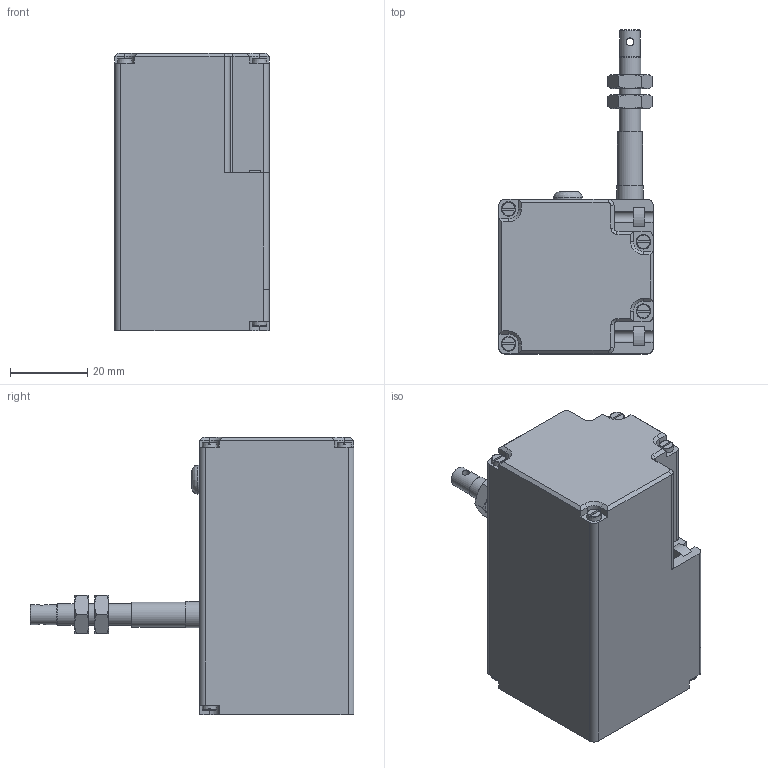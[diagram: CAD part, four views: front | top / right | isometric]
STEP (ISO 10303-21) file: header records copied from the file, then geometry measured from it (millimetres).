
FILE_DESCRIPTION (( 'STEP AP203' ), '1' );
FILE_NAME ('DW1000-55-CA.step', '2019-04-01T15:25:24', ( '' ), ( '' ), 'SwSTEP 2.0', 'SolidWorks 2017', '' );
FILE_SCHEMA (( 'CONFIG_CONTROL_DESIGN' ));
Length unit declared in the file: millimetre
Products named in the file (1): DW1000-55-CA
Bounding box: 40 x 84 x 72 mm (x, y, z)
Volume: 107792.4 mm3; surface area: 18783.5 mm2
Topology: 1 solids, 12 shells, 245 faces, 586 edges, 373 vertices
Faces by surface type: plane 129, cylinder 53, cone 50, torus 12, bspline 1
Full cylindrical faces by diameter (mm): 1.783 x3, 1.784 x3, 2 x7, 2.5 x6, 4 x1, 5.2 x1, 5.6 x3, 6.5 x1, 6.8 x1, 7.5 x1, 24 x1, 30 x1
Entity records: 7054 total; most frequent: CARTESIAN_POINT 1665, DIRECTION 1112, ORIENTED_EDGE 1028, EDGE_CURVE 514, AXIS2_PLACEMENT_3D 428, VERTEX_POINT 350, EDGE_LOOP 322, FACE_OUTER_BOUND 275
